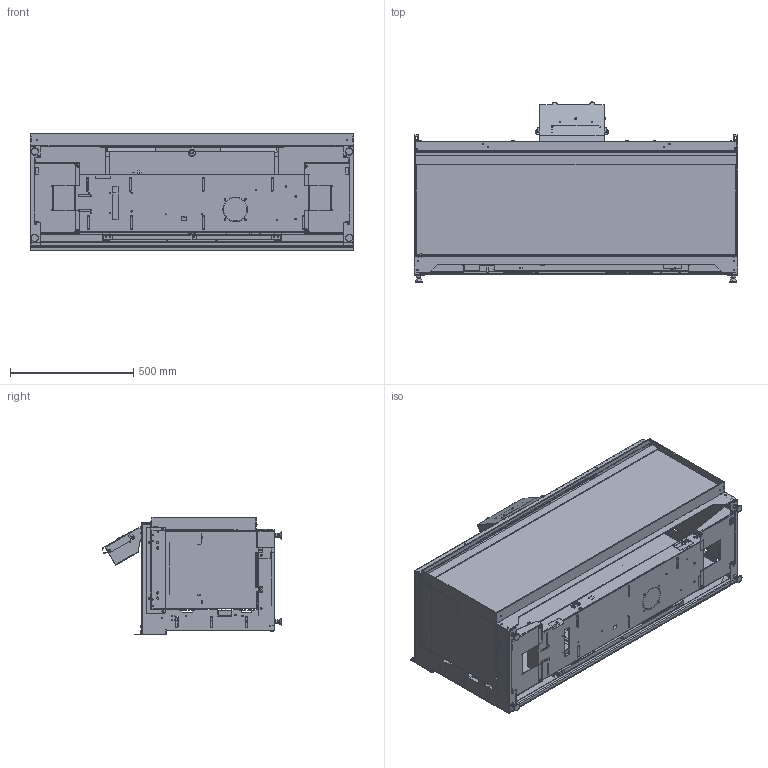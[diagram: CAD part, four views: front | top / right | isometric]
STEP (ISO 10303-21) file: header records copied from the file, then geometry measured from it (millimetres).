
FILE_DESCRIPTION (( 'STEP AP203' ), '1' );
FILE_NAME ('E-ONE GEN2 130 F EU MAIN ASSY.STEP', '2023-10-18T10:17:12', ( '' ), ( '' ), 'SwSTEP 2.0', 'SolidWorks 2020', '' );
FILE_SCHEMA (( 'CONFIG_CONTROL_DESIGN' ));
Length unit declared in the file: millimetre
Products named in the file (1): E-ONE GEN2 130 F EU MAIN ASSY
Bounding box: 1311 x 728.5 x 477.1 mm (x, y, z)
Surface area: 7650682.1 mm2 (no closed solid volume)
Topology: 0 solids, 558 shells, 1290 faces, 8210 edges, 7173 vertices
Faces by surface type: plane 719, cylinder 434, cone 88, torus 29, bspline 17, sphere 3
Entity records: 81243 total; most frequent: CARTESIAN_POINT 18633, DIRECTION 13659, ORIENTED_EDGE 9333, EDGE_CURVE 8206, VERTEX_POINT 7173, LINE 4861, VECTOR 4861, AXIS2_PLACEMENT_3D 4399
